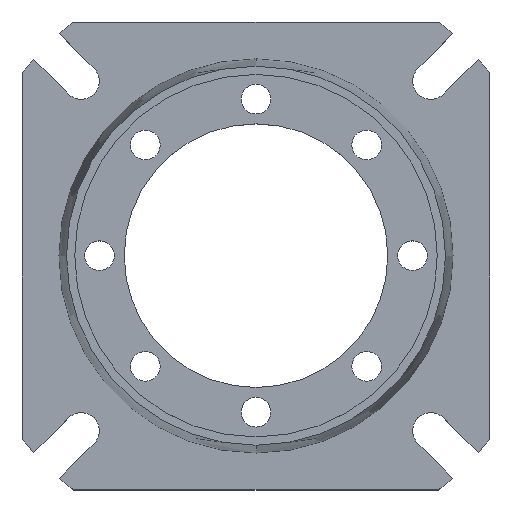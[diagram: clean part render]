
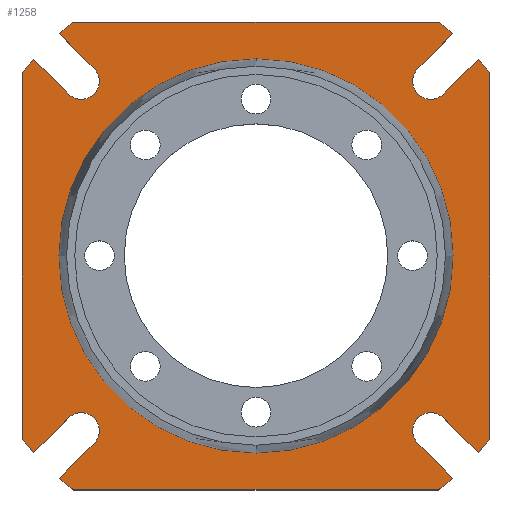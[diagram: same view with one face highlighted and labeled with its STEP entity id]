
A CAD part, top view. The second image highlights one B-rep face of the part: STEP entity #1258.
In plain terms, the highlighted planar face has unit normal (0, 0, 1).
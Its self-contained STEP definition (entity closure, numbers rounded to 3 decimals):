
#293=CARTESIAN_POINT('',(53.033,53.033,-48.));
#294=DIRECTION('',(0.,0.,-1.));
#295=DIRECTION('',(0.707,-0.707,0.));
#296=AXIS2_PLACEMENT_3D('',#293,#294,#295);
#298=DIRECTION('',(-0.707,-0.707,0.));
#299=VECTOR('',#298,14.832);
#300=CARTESIAN_POINT('',(67.41,59.632,-48.));
#301=LINE('',#300,#299);
#302=CARTESIAN_POINT('',(0.,0.,-48.));
#303=DIRECTION('',(0.,0.,-1.));
#304=DIRECTION('',(0.749,0.663,0.));
#305=AXIS2_PLACEMENT_3D('',#302,#303,#304);
#307=DIRECTION('',(0.,1.,0.));
#308=VECTOR('',#307,110.616);
#309=CARTESIAN_POINT('',(71.,-55.308,-48.));
#310=LINE('',#309,#308);
#311=CARTESIAN_POINT('',(0.,0.,-48.));
#312=DIRECTION('',(0.,0.,-1.));
#313=DIRECTION('',(0.789,-0.615,0.));
#314=AXIS2_PLACEMENT_3D('',#311,#312,#313);
#316=DIRECTION('',(-0.707,0.707,0.));
#317=VECTOR('',#316,14.832);
#318=CARTESIAN_POINT('',(67.41,-59.632,-48.));
#319=LINE('',#318,#317);
#320=CARTESIAN_POINT('',(53.033,-53.033,-48.));
#321=DIRECTION('',(0.,0.,-1.));
#322=DIRECTION('',(-0.707,-0.707,0.));
#323=AXIS2_PLACEMENT_3D('',#320,#321,#322);
#325=DIRECTION('',(-0.707,0.707,0.));
#326=VECTOR('',#325,14.832);
#327=CARTESIAN_POINT('',(59.632,-67.41,-48.));
#328=LINE('',#327,#326);
#329=CARTESIAN_POINT('',(0.,0.,-48.));
#330=DIRECTION('',(0.,0.,-1.));
#331=DIRECTION('',(0.663,-0.749,0.));
#332=AXIS2_PLACEMENT_3D('',#329,#330,#331);
#334=DIRECTION('',(1.,0.,0.));
#335=VECTOR('',#334,110.616);
#336=CARTESIAN_POINT('',(-55.308,-71.,-48.));
#337=LINE('',#336,#335);
#338=CARTESIAN_POINT('',(0.,0.,-48.));
#339=DIRECTION('',(0.,0.,1.));
#340=DIRECTION('',(-0.663,-0.749,0.));
#341=AXIS2_PLACEMENT_3D('',#338,#339,#340);
#343=DIRECTION('',(0.707,0.707,0.));
#344=VECTOR('',#343,14.832);
#345=CARTESIAN_POINT('',(-59.632,-67.41,-48.));
#346=LINE('',#345,#344);
#347=CARTESIAN_POINT('',(-53.033,-53.033,-48.));
#348=DIRECTION('',(0.,0.,-1.));
#349=DIRECTION('',(-0.707,0.707,0.));
#350=AXIS2_PLACEMENT_3D('',#347,#348,#349);
#352=DIRECTION('',(0.707,0.707,0.));
#353=VECTOR('',#352,14.832);
#354=CARTESIAN_POINT('',(-67.41,-59.632,-48.));
#355=LINE('',#354,#353);
#356=CARTESIAN_POINT('',(0.,0.,-48.));
#357=DIRECTION('',(0.,0.,1.));
#358=DIRECTION('',(-0.789,-0.615,0.));
#359=AXIS2_PLACEMENT_3D('',#356,#357,#358);
#361=DIRECTION('',(0.,-1.,0.));
#362=VECTOR('',#361,110.616);
#363=CARTESIAN_POINT('',(-71.,55.308,-48.));
#364=LINE('',#363,#362);
#365=CARTESIAN_POINT('',(0.,0.,-48.));
#366=DIRECTION('',(0.,0.,1.));
#367=DIRECTION('',(-0.749,0.663,0.));
#368=AXIS2_PLACEMENT_3D('',#365,#366,#367);
#370=DIRECTION('',(0.707,-0.707,0.));
#371=VECTOR('',#370,14.832);
#372=CARTESIAN_POINT('',(-67.41,59.632,-48.));
#373=LINE('',#372,#371);
#374=CARTESIAN_POINT('',(-53.033,53.033,-48.));
#375=DIRECTION('',(0.,0.,-1.));
#376=DIRECTION('',(0.707,0.707,0.));
#377=AXIS2_PLACEMENT_3D('',#374,#375,#376);
#379=DIRECTION('',(0.707,-0.707,0.));
#380=VECTOR('',#379,14.832);
#381=CARTESIAN_POINT('',(-59.632,67.41,-48.));
#382=LINE('',#381,#380);
#383=CARTESIAN_POINT('',(0.,0.,-48.));
#384=DIRECTION('',(0.,0.,1.));
#385=DIRECTION('',(-0.615,0.789,0.));
#386=AXIS2_PLACEMENT_3D('',#383,#384,#385);
#388=DIRECTION('',(-1.,0.,0.));
#389=VECTOR('',#388,110.616);
#390=CARTESIAN_POINT('',(55.308,71.,-48.));
#391=LINE('',#390,#389);
#392=CARTESIAN_POINT('',(0.,0.,-48.));
#393=DIRECTION('',(0.,0.,-1.));
#394=DIRECTION('',(0.615,0.789,0.));
#395=AXIS2_PLACEMENT_3D('',#392,#393,#394);
#397=DIRECTION('',(-0.707,-0.707,0.));
#398=VECTOR('',#397,14.832);
#399=CARTESIAN_POINT('',(59.632,67.41,-48.));
#400=LINE('',#399,#398);
#401=CARTESIAN_POINT('',(0.,0.,-48.));
#402=DIRECTION('',(0.,0.,-1.));
#403=DIRECTION('',(0.,1.,0.));
#404=AXIS2_PLACEMENT_3D('',#401,#402,#403);
#414=CARTESIAN_POINT('',(0.,0.,-48.));
#415=DIRECTION('',(0.,0.,1.));
#416=DIRECTION('',(0.,1.,0.));
#417=AXIS2_PLACEMENT_3D('',#414,#415,#416);
#689=CARTESIAN_POINT('',(0.,59.803,-48.));
#691=VERTEX_POINT('',#689);
#709=CARTESIAN_POINT('',(0.,-59.803,-48.));
#711=VERTEX_POINT('',#709);
#733=CARTESIAN_POINT('',(55.308,71.,-48.));
#734=CARTESIAN_POINT('',(-55.308,71.,-48.));
#735=VERTEX_POINT('',#733);
#736=VERTEX_POINT('',#734);
#737=CARTESIAN_POINT('',(-71.,55.308,-48.));
#738=CARTESIAN_POINT('',(-71.,-55.308,-48.));
#739=VERTEX_POINT('',#737);
#740=VERTEX_POINT('',#738);
#741=CARTESIAN_POINT('',(-55.308,-71.,-48.));
#742=CARTESIAN_POINT('',(55.308,-71.,-48.));
#743=VERTEX_POINT('',#741);
#744=VERTEX_POINT('',#742);
#745=CARTESIAN_POINT('',(71.,-55.308,-48.));
#746=CARTESIAN_POINT('',(71.,55.308,-48.));
#747=VERTEX_POINT('',#745);
#748=VERTEX_POINT('',#746);
#781=CARTESIAN_POINT('',(59.632,67.41,-48.));
#782=VERTEX_POINT('',#781);
#783=CARTESIAN_POINT('',(67.41,59.632,-48.));
#784=VERTEX_POINT('',#783);
#785=CARTESIAN_POINT('',(67.41,-59.632,-48.));
#786=VERTEX_POINT('',#785);
#787=CARTESIAN_POINT('',(59.632,-67.41,-48.));
#788=VERTEX_POINT('',#787);
#789=CARTESIAN_POINT('',(56.922,49.144,-48.));
#790=CARTESIAN_POINT('',(49.144,56.922,-48.));
#791=VERTEX_POINT('',#789);
#792=VERTEX_POINT('',#790);
#793=CARTESIAN_POINT('',(-49.144,56.922,-48.));
#794=CARTESIAN_POINT('',(-56.922,49.144,-48.));
#795=VERTEX_POINT('',#793);
#796=VERTEX_POINT('',#794);
#797=CARTESIAN_POINT('',(-67.41,59.632,-48.));
#798=VERTEX_POINT('',#797);
#799=CARTESIAN_POINT('',(-59.632,67.41,-48.));
#800=VERTEX_POINT('',#799);
#801=CARTESIAN_POINT('',(-56.922,-49.144,-48.));
#802=CARTESIAN_POINT('',(-49.144,-56.922,-48.));
#803=VERTEX_POINT('',#801);
#804=VERTEX_POINT('',#802);
#805=CARTESIAN_POINT('',(-59.632,-67.41,-48.));
#806=VERTEX_POINT('',#805);
#807=CARTESIAN_POINT('',(-67.41,-59.632,-48.));
#808=VERTEX_POINT('',#807);
#809=CARTESIAN_POINT('',(49.144,-56.922,-48.));
#810=CARTESIAN_POINT('',(56.922,-49.144,-48.));
#811=VERTEX_POINT('',#809);
#812=VERTEX_POINT('',#810);
#1204=CARTESIAN_POINT('',(0.,0.,-48.));
#1205=DIRECTION('',(0.,0.,-1.));
#1206=DIRECTION('',(0.,-1.,0.));
#1207=AXIS2_PLACEMENT_3D('',#1204,#1205,#1206);
#1208=PLANE('',#1207);
#1209=ORIENTED_EDGE('',*,*,#1111,.F.);
#1210=ORIENTED_EDGE('',*,*,#1126,.F.);
#1211=ORIENTED_EDGE('',*,*,#1156,.T.);
#1213=ORIENTED_EDGE('',*,*,#1212,.F.);
#1214=ORIENTED_EDGE('',*,*,#1168,.T.);
#1216=ORIENTED_EDGE('',*,*,#1215,.T.);
#1218=ORIENTED_EDGE('',*,*,#1217,.F.);
#1220=ORIENTED_EDGE('',*,*,#1219,.F.);
#1221=ORIENTED_EDGE('',*,*,#1186,.T.);
#1223=ORIENTED_EDGE('',*,*,#1222,.F.);
#1225=ORIENTED_EDGE('',*,*,#1224,.F.);
#1227=ORIENTED_EDGE('',*,*,#1226,.T.);
#1229=ORIENTED_EDGE('',*,*,#1228,.F.);
#1231=ORIENTED_EDGE('',*,*,#1230,.F.);
#1233=ORIENTED_EDGE('',*,*,#1232,.F.);
#1235=ORIENTED_EDGE('',*,*,#1234,.F.);
#1237=ORIENTED_EDGE('',*,*,#1236,.F.);
#1239=ORIENTED_EDGE('',*,*,#1238,.T.);
#1241=ORIENTED_EDGE('',*,*,#1240,.F.);
#1243=ORIENTED_EDGE('',*,*,#1242,.F.);
#1245=ORIENTED_EDGE('',*,*,#1244,.F.);
#1247=ORIENTED_EDGE('',*,*,#1246,.F.);
#1248=ORIENTED_EDGE('',*,*,#1139,.T.);
#1249=ORIENTED_EDGE('',*,*,#1198,.T.);
#1250=EDGE_LOOP('',(#1209,#1210,#1211,#1213,#1214,#1216,#1218,#1220,#1221,#1223,
#1225,#1227,#1229,#1231,#1233,#1235,#1237,#1239,#1241,#1243,#1245,#1247,#1248,
#1249));
#1251=FACE_OUTER_BOUND('',#1250,.F.);
#1253=ORIENTED_EDGE('',*,*,#1252,.F.);
#1255=ORIENTED_EDGE('',*,*,#1254,.T.);
#1256=EDGE_LOOP('',(#1253,#1255));
#1257=FACE_BOUND('',#1256,.F.);
#1258=ADVANCED_FACE('',(#1251,#1257),#1208,.F.);
#297=CIRCLE('',#296,5.5);
#306=CIRCLE('',#305,90.);
#315=CIRCLE('',#314,90.);
#324=CIRCLE('',#323,5.5);
#333=CIRCLE('',#332,90.);
#342=CIRCLE('',#341,90.);
#351=CIRCLE('',#350,5.5);
#360=CIRCLE('',#359,90.);
#369=CIRCLE('',#368,90.);
#378=CIRCLE('',#377,5.5);
#387=CIRCLE('',#386,90.);
#396=CIRCLE('',#395,90.);
#405=CIRCLE('',#404,59.803);
#418=CIRCLE('',#417,59.803);
#1111=EDGE_CURVE('',#791,#792,#297,.T.);
#1126=EDGE_CURVE('',#784,#791,#301,.T.);
#1139=EDGE_CURVE('',#735,#782,#396,.T.);
#1156=EDGE_CURVE('',#784,#748,#306,.T.);
#1168=EDGE_CURVE('',#747,#786,#315,.T.);
#1186=EDGE_CURVE('',#788,#744,#333,.T.);
#1198=EDGE_CURVE('',#782,#792,#400,.T.);
#1212=EDGE_CURVE('',#747,#748,#310,.T.);
#1215=EDGE_CURVE('',#786,#812,#319,.T.);
#1217=EDGE_CURVE('',#811,#812,#324,.T.);
#1219=EDGE_CURVE('',#788,#811,#328,.T.);
#1222=EDGE_CURVE('',#743,#744,#337,.T.);
#1224=EDGE_CURVE('',#806,#743,#342,.T.);
#1226=EDGE_CURVE('',#806,#804,#346,.T.);
#1228=EDGE_CURVE('',#803,#804,#351,.T.);
#1230=EDGE_CURVE('',#808,#803,#355,.T.);
#1232=EDGE_CURVE('',#740,#808,#360,.T.);
#1234=EDGE_CURVE('',#739,#740,#364,.T.);
#1236=EDGE_CURVE('',#798,#739,#369,.T.);
#1238=EDGE_CURVE('',#798,#796,#373,.T.);
#1240=EDGE_CURVE('',#795,#796,#378,.T.);
#1242=EDGE_CURVE('',#800,#795,#382,.T.);
#1244=EDGE_CURVE('',#736,#800,#387,.T.);
#1246=EDGE_CURVE('',#735,#736,#391,.T.);
#1252=EDGE_CURVE('',#691,#711,#405,.T.);
#1254=EDGE_CURVE('',#691,#711,#418,.T.);
